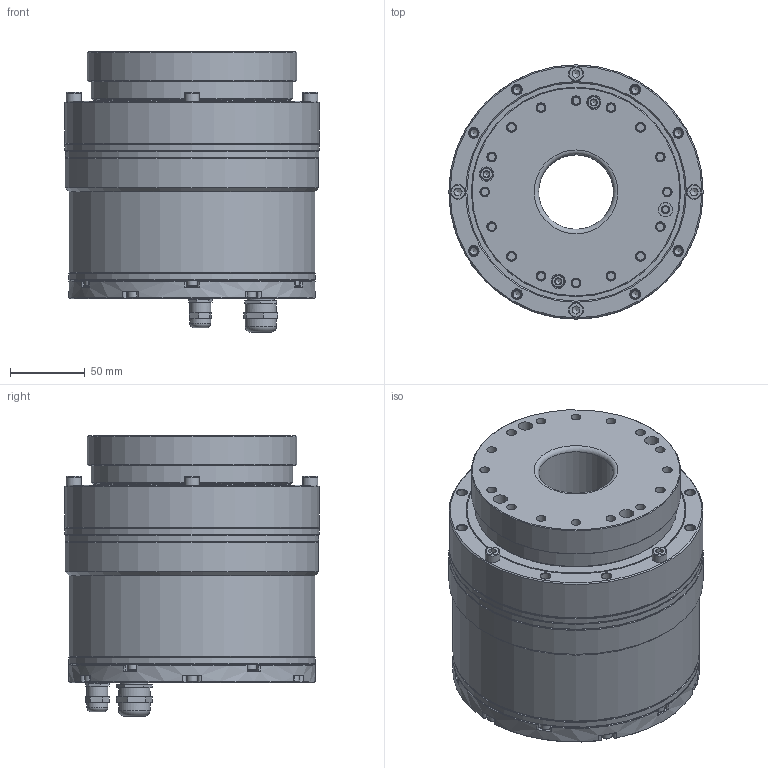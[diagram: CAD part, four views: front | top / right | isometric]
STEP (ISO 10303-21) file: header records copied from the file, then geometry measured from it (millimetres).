
FILE_DESCRIPTION( ('This file contains a STEP AP42 implementation' ,'as created by ZW3D STEP Interface translator.') ,'2;1' );
FILE_NAME( 'MIS40B壽誹耀郪.stp' ,'24 615.184536', (''), ('ZWCAD Software Co.'), 'Version 1.0', 'ZW3D to STEP translator', '' );
FILE_SCHEMA(('AUTOMOTIVE_DESIGN { 1 0 10303 214 1 1 1 1 }'));
Length unit declared in the file: millimetre
Products named in the file (2): 0; MIS40B壽誹耀郪
Bounding box: 170 x 170 x 187.5 mm (x, y, z)
Volume: 909589.8 mm3; surface area: 425855.5 mm2
Topology: 53 solids, 57 shells, 1739 faces, 4676 edges, 3058 vertices
Faces by surface type: plane 666, cone 559, cylinder 411, torus 91, bspline 12
Full cylindrical faces by diameter (mm): 3.3 x36, 3.838 x12, 4 x24, 4.2 x20, 4.3 x6, 4.5 x18, 4.826 x7, 5 x40, 5.5 x12, 6 x8, 6.5 x56, 6.6 x12, 7 x18, 8 x5, 8.5 x7, 9.5 x4, 10 x9, 12 x2, 14 x2, 18 x2, 21 x2, 50 x3, 53 x3, 54 x1, 105.916 x2, 108 x2, 108.25 x1, 113 x2, 132 x2, 134.5 x1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
Entity records: 57459 total; most frequent: CARTESIAN_POINT 11302, DIRECTION 10063, ORIENTED_EDGE 8392, AXIS2_PLACEMENT_3D 4204, EDGE_CURVE 4196, VERTEX_POINT 2636, CIRCLE 2476, EDGE_LOOP 2134
